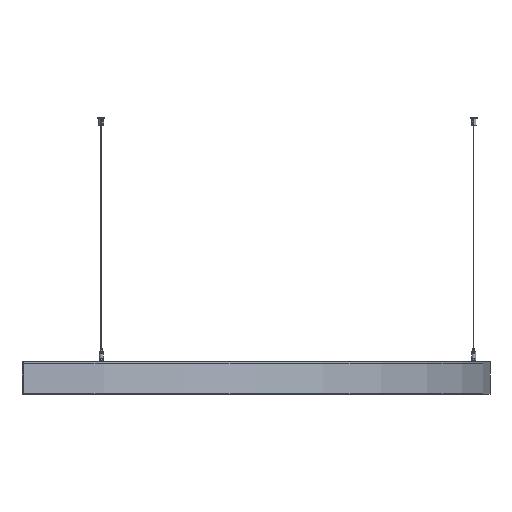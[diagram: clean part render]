
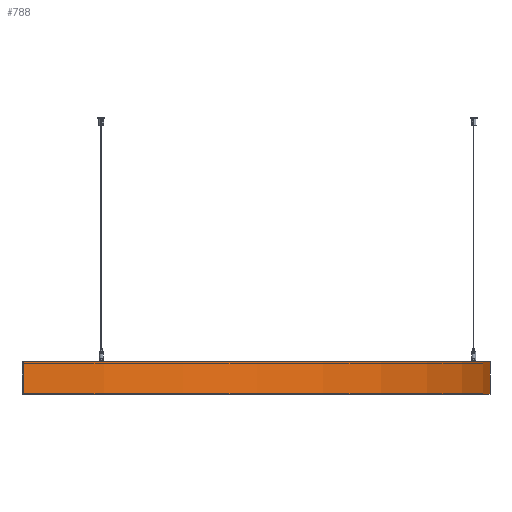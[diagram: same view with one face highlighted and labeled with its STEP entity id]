
A CAD part, front view. The second image highlights one B-rep face of the part: STEP entity #788.
In plain terms, the highlighted cylindrical face has radius 1000 mm (diameter 2000 mm), a partial arc.
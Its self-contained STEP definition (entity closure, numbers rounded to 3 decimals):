
#788=ADVANCED_FACE('',(#899),#901,.T.);
#899=FACE_BOUND('',#900,.T.);
#900=EDGE_LOOP('',(#1493,#1494,#1495,#1496));
#901=CYLINDRICAL_SURFACE('',#902,1000.);
#902=AXIS2_PLACEMENT_3D('',#903,#904,#905);
#903=CARTESIAN_POINT('',(0.,0.,0.));
#904=DIRECTION('',(0.,0.,1.));
#905=DIRECTION('',(0.,-1.,0.));
#1493=ORIENTED_EDGE('',*,*,#1759,.T.);
#1494=ORIENTED_EDGE('',*,*,#1767,.T.);
#1495=ORIENTED_EDGE('',*,*,#1768,.F.);
#1496=ORIENTED_EDGE('',*,*,#1769,.F.);
#1759=EDGE_CURVE('',#1901,#1899,#1902,.T.);
#1767=EDGE_CURVE('',#1899,#1913,#1915,.T.);
#1768=EDGE_CURVE('',#1916,#1913,#1917,.T.);
#1769=EDGE_CURVE('',#1901,#1916,#1918,.T.);
#1899=VERTEX_POINT('',#2144);
#1901=VERTEX_POINT('',#2148);
#1902=CIRCLE('',#2149,1000.);
#1913=VERTEX_POINT('',#2176);
#1915=LINE('',#2180,#2181);
#1916=VERTEX_POINT('',#2183);
#1917=CIRCLE('',#2184,1000.);
#1918=LINE('',#2188,#2189);
#2144=CARTESIAN_POINT('',(0.,1000.,0.));
#2148=CARTESIAN_POINT('',(0.,-1000.,0.));
#2149=AXIS2_PLACEMENT_3D('',#2150,#2151,#2152);
#2150=CARTESIAN_POINT('',(0.,0.,0.));
#2151=DIRECTION('',(0.,0.,1.));
#2152=DIRECTION('',(0.,-1.,0.));
#2176=CARTESIAN_POINT('',(0.,1000.,70.));
#2180=CARTESIAN_POINT('',(0.,1000.,0.));
#2181=VECTOR('',#2182,1.);
#2182=DIRECTION('',(0.,0.,1.));
#2183=CARTESIAN_POINT('',(0.,-1000.,70.));
#2184=AXIS2_PLACEMENT_3D('',#2185,#2186,#2187);
#2185=CARTESIAN_POINT('',(0.,0.,70.));
#2186=DIRECTION('',(0.,0.,1.));
#2187=DIRECTION('',(0.,-1.,0.));
#2188=CARTESIAN_POINT('',(0.,-1000.,0.));
#2189=VECTOR('',#2190,1.);
#2190=DIRECTION('',(0.,0.,1.));
